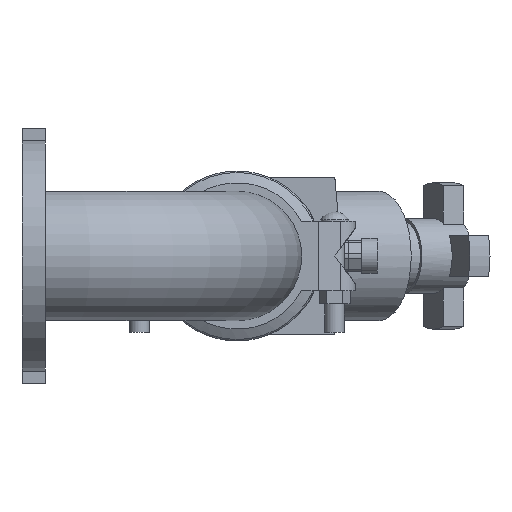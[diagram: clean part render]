
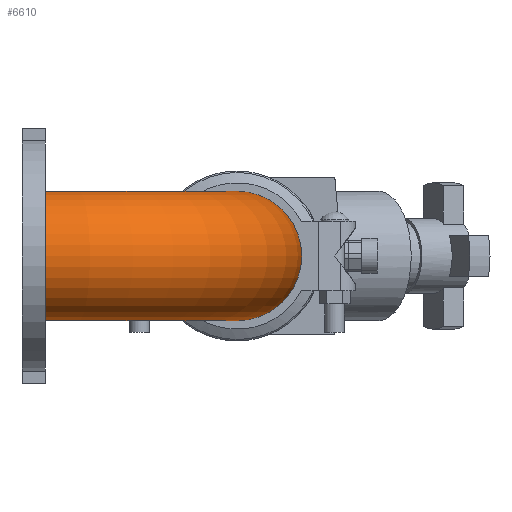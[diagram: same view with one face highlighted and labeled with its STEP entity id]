
A CAD part, front view. The second image highlights one B-rep face of the part: STEP entity #6610.
In plain terms, the highlighted toroidal (fillet/blend) face has major radius 209.55 mm and minor radius 70.65 mm.
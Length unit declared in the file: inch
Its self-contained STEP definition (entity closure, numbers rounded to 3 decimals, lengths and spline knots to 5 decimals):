
#64=TOROIDAL_SURFACE('',#7536,8.25,2.7815);
#771=FACE_OUTER_BOUND('',#1182,.T.);
#1182=EDGE_LOOP('',(#5764,#5765,#5766,#5767));
#2475=CIRCLE('',#7521,2.7815);
#2478=CIRCLE('',#7525,2.7815);
#2488=CIRCLE('',#7537,5.4685);
#3085=VERTEX_POINT('',#11912);
#3088=VERTEX_POINT('',#11919);
#3978=EDGE_CURVE('',#3085,#3085,#2475,.T.);
#3981=EDGE_CURVE('',#3088,#3088,#2478,.T.);
#3991=EDGE_CURVE('',#3088,#3085,#2488,.T.);
#5764=ORIENTED_EDGE('',*,*,#3981,.T.);
#5765=ORIENTED_EDGE('',*,*,#3991,.T.);
#5766=ORIENTED_EDGE('',*,*,#3978,.F.);
#5767=ORIENTED_EDGE('',*,*,#3991,.F.);
#6610=ADVANCED_FACE('',(#771),#64,.T.);
#7521=AXIS2_PLACEMENT_3D('',#11913,#9440,#9441);
#7525=AXIS2_PLACEMENT_3D('',#11920,#9448,#9449);
#7536=AXIS2_PLACEMENT_3D('',#11939,#9470,#9471);
#7537=AXIS2_PLACEMENT_3D('',#11940,#9472,#9473);
#9440=DIRECTION('center_axis',(0.,-1.,0.));
#9441=DIRECTION('ref_axis',(-1.,0.,0.));
#9448=DIRECTION('center_axis',(-1.,0.,0.));
#9449=DIRECTION('ref_axis',(0.,1.,0.));
#9470=DIRECTION('center_axis',(0.,0.,-1.));
#9471=DIRECTION('ref_axis',(-1.,0.,0.));
#9472=DIRECTION('center_axis',(0.,0.,1.));
#9473=DIRECTION('ref_axis',(-1.,0.,0.));
#11912=CARTESIAN_POINT('',(2.7815,1.,0.));
#11913=CARTESIAN_POINT('Origin',(0.,1.,0.));
#11919=CARTESIAN_POINT('',(8.25,6.4685,0.));
#11920=CARTESIAN_POINT('Origin',(8.25,9.25,0.));
#11939=CARTESIAN_POINT('Origin',(8.25,1.,0.));
#11940=CARTESIAN_POINT('Origin',(8.25,1.,0.));
